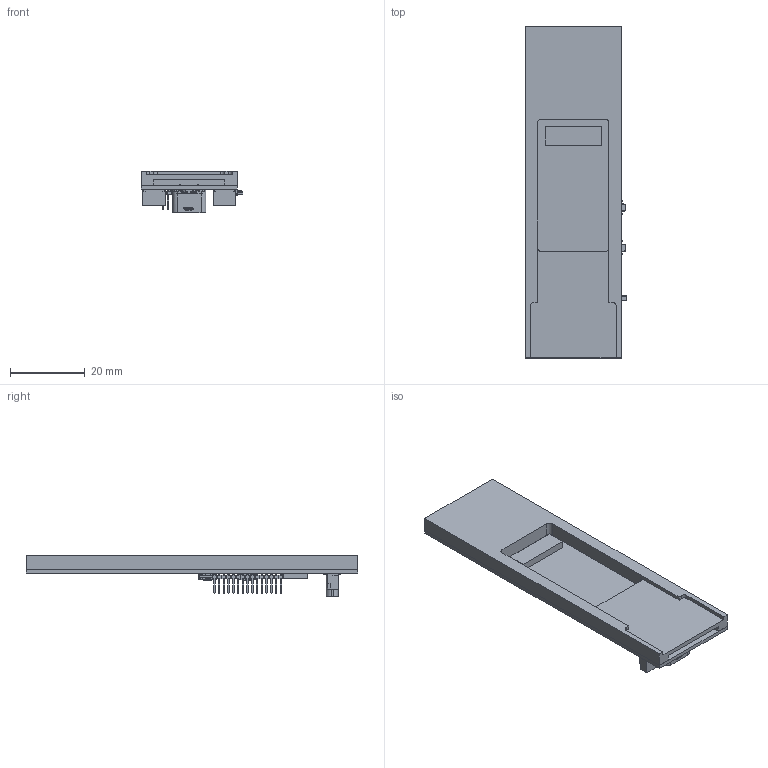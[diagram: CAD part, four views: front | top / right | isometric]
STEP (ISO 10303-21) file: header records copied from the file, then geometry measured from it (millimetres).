
FILE_DESCRIPTION((''),'2;1');
FILE_NAME('0-ALL_ASM_ASM_ASM','2023-12-13T13:49:41',('HR'),(''),'CREO PARAMETRIC BY PTC INC, 2019010','CREO PARAMETRIC BY PTC INC, 2019010','');
FILE_SCHEMA(('AUTOMOTIVE_DESIGN { 1 0 10303 214 1 1 1 1 }'));
Products named in the file (58): 0-PCB_11_ASM_1; 0-TP_ASM_61_ASM_1_ASM; 0-ALL_ASM_32_ASM_1_ASM; 0-PCB_10; SOLID-236_1_1; HDR-SMD_40P-P1_27-V-M-R2-C20-LS_ASM; U1_ASM_1_ASM_1_ASM; PCBMODEL_ASM_2_ASM_1_ASM; 3D_PCB1_2023-07-24_ASM_1_ASM_1_ASM; 3D_PCB1_2023-07-24_ASM_ASM_1_ASM; COMPOUND-17719_1_1_1; COMPOUND-17719_2_1_1; COMPOUND-17719_ASM_1_ASM_1_ASM; SW-SMD_TS24CA_ASM_1_ASM_1_ASM; SW1_ASM_1_ASM_1_ASM; SW1_ASM_ASM_1_ASM; COMPOUND-17719_1_1_1_1; COMPOUND-17719_2_1_1_1; COMPOUND-17719_ASM_1_1_ASM_1_ASM; SW-SMD_TS24CA_ASM_1_1_ASM_1_ASM; SW1_ASM_1_1_ASM_1_ASM; ASM0001_ASM_1_ASM; COMPOUND004_1_1_1; COMPOUND005_1_1_1; COMPOUND006_1_1_1; COMPOUND007_1_2_1; COMPOUND008_1_1_1; COMPOUND009_ASM_1_ASM_1_ASM_1_ASM; SW-TH_MSK12C02_ASM_1_ASM_1_ASM__ASM; SW2_ASM_2_ASM_1_ASM_1_ASM; UNNAMED-PCBMODELSW2_ASM_1_ASM_1_ASM; UNNAMED-PCBMODELSW2_ASM_ASM_1_A_ASM; SWITCH_ASM_1_ASM; 0-1_1; 0-2_1; 0-ALL_ASM_ASM_97_ASM; 0-0001; COMPOUND-870_1_2_1; COMPOUND-870_1_2_2; COMPOUND-870_1_2_3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
Assembly tree (57 placements, depth 9):
  0-ALL_ASM_ASM_ASM
    0-ALL_ASM_ASM_97_ASM
      0-ALL_ASM_32_ASM_1_ASM
        0-TP_ASM_61_ASM_1_ASM
          0-PCB_11_ASM_1
      0-PCB_10
      3D_PCB1_2023-07-24_ASM_ASM_1_ASM
        3D_PCB1_2023-07-24_ASM_1_ASM_1_ASM
          PCBMODEL_ASM_2_ASM_1_ASM
            U1_ASM_1_ASM_1_ASM
              HDR-SMD_40P-P1_27-V-M-R2-C20-LS_ASM
                SOLID-236_1_1
      SW1_ASM_ASM_1_ASM
        SW1_ASM_1_ASM_1_ASM
          SW-SMD_TS24CA_ASM_1_ASM_1_ASM
            COMPOUND-17719_ASM_1_ASM_1_ASM
              COMPOUND-17719_1_1_1
              COMPOUND-17719_2_1_1
      ASM0001_ASM_1_ASM
        SW1_ASM_1_1_ASM_1_ASM
          SW-SMD_TS24CA_ASM_1_1_ASM_1_ASM
            COMPOUND-17719_ASM_1_1_ASM_1_ASM
              COMPOUND-17719_1_1_1_1
              COMPOUND-17719_2_1_1_1
      SWITCH_ASM_1_ASM
        UNNAMED-PCBMODELSW2_ASM_ASM_1_A_ASM
          UNNAMED-PCBMODELSW2_ASM_1_ASM_1_ASM
            SW2_ASM_2_ASM_1_ASM_1_ASM
              SW-TH_MSK12C02_ASM_1_ASM_1_ASM__ASM
                COMPOUND009_ASM_1_ASM_1_ASM_1_ASM
                  COMPOUND004_1_1_1
                  COMPOUND005_1_1_1
                  COMPOUND006_1_1_1
                  COMPOUND007_1_2_1
                  COMPOUND008_1_1_1
      0-1_1
      0-2_1
    0-0001
    3D_PCB1_2023-11-03_ASM
      PCBMODEL_1_ASM
        USB1_1_ASM
          USB-C-SMD_TYPEC-303-ACP16_1_ASM
            COMPOUND-870_1_2_ASM
              COMPOUND-870_1_2_1
              COMPOUND-870_1_2_2
              COMPOUND-870_1_2_3
              COMPOUND-870_1_2_4
              COMPOUND-870_1_2_5
              COMPOUND-870_1_2_6
              COMPOUND-870_1_2_7
              COMPOUND-870_1_2_8
              COMPOUND-870_1_2_9
              COMPOUND-870_1_2_10
              COMPOUND-870_1_2_11
              COMPOUND-870_1_2_12
              COMPOUND-870_1_2_13
              COMPOUND-870_1_2_14
              COMPOUND-870_1_2_15
Bounding box: 27.22 x 88.83 x 11.1 mm (x, y, z)
Volume: 7851.9 mm3; surface area: 10957.6 mm2
Topology: 29 solids, 29 shells, 3054 faces, 8056 edges, 5254 vertices
Faces by surface type: plane 2338, extrusion 466, cylinder 228, sphere 12, torus 4, bspline 4, cone 2
Entity records: 140882 total; most frequent: CARTESIAN_POINT 21990, ORIENTED_EDGE 16088, DIRECTION 13497, PRESENTATION_STYLE_ASSIGNMENT 10826, STYLED_ITEM 8452, CURVE_STYLE 8424, EDGE_CURVE 8044, VECTOR 7083
